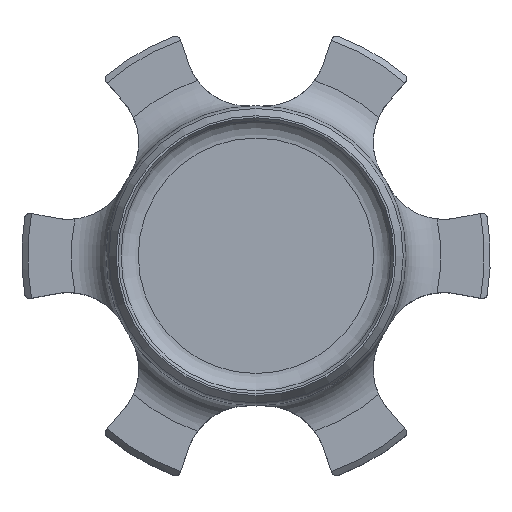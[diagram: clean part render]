
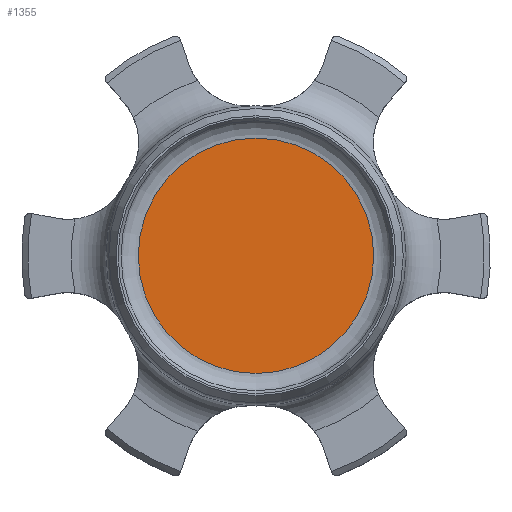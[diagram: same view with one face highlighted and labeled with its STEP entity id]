
A CAD part, top view. The second image highlights one B-rep face of the part: STEP entity #1355.
In plain terms, the highlighted planar face has unit normal (0, 0, 1).
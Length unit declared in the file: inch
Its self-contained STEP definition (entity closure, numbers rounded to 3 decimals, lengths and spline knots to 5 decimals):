
#29=PLANE('',#1501);
#94=FACE_OUTER_BOUND('',#168,.T.);
#168=EDGE_LOOP('',(#1075));
#262=CIRCLE('',#1497,0.11779);
#607=VERTEX_POINT('',#2496);
#782=EDGE_CURVE('',#607,#607,#262,.T.);
#1075=ORIENTED_EDGE('',*,*,#782,.F.);
#1355=ADVANCED_FACE('',(#94),#29,.T.);
#1497=AXIS2_PLACEMENT_3D('',#2497,#1806,#1807);
#1501=AXIS2_PLACEMENT_3D('',#2503,#1814,#1815);
#1806=DIRECTION('center_axis',(0.,0.,-1.));
#1807=DIRECTION('ref_axis',(0.,-1.,0.));
#1814=DIRECTION('center_axis',(0.,0.,1.));
#1815=DIRECTION('ref_axis',(1.,0.,0.));
#2496=CARTESIAN_POINT('',(0.11779,0.,0.19525));
#2497=CARTESIAN_POINT('Origin',(0.,0.,0.19525));
#2503=CARTESIAN_POINT('Origin',(0.,0.12934,0.19525));
